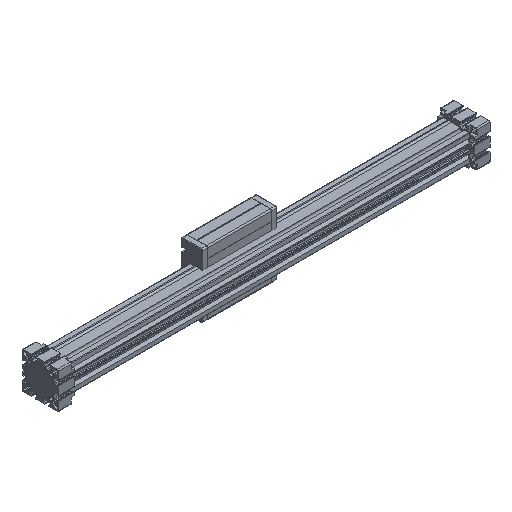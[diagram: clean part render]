
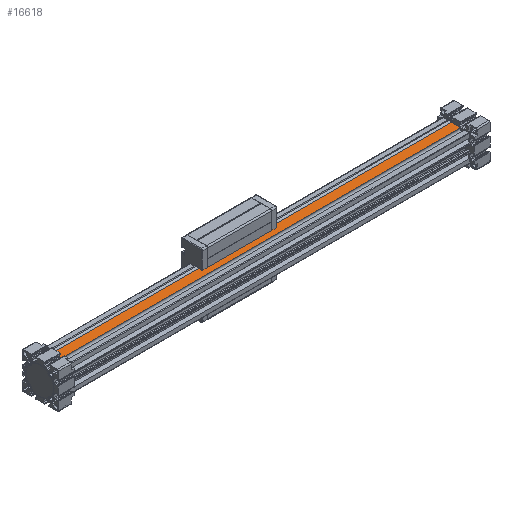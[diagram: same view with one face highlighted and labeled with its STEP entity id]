
A CAD part, isometric view. The second image highlights one B-rep face of the part: STEP entity #16618.
In plain terms, the highlighted planar face has unit normal (0, 0, 1) as drawn and (0, 0, -1) by its records, which use the part's own axes.
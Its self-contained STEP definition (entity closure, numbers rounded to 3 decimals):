
#313 = PLANE ( 'NONE',  #24413 ) ;
#406 = VECTOR ( 'NONE', #27085, 1000. ) ;
#626 = VECTOR ( 'NONE', #26319, 1000. ) ;
#2727 = DIRECTION ( 'NONE',  ( -1., 0., 0. ) ) ;
#2949 = LINE ( 'NONE', #22754, #14836 ) ;
#5091 = CARTESIAN_POINT ( 'NONE',  ( 0., -10.76, -30. ) ) ;
#5829 = EDGE_LOOP ( 'NONE', ( #12409, #22188, #28394, #19390 ) ) ;
#6107 = CARTESIAN_POINT ( 'NONE',  ( 0., 10.76, -30. ) ) ;
#6601 = VERTEX_POINT ( 'NONE', #5091 ) ;
#11443 = EDGE_CURVE ( 'NONE', #17444, #6601, #13265, .T. ) ;
#12179 = LINE ( 'NONE', #25850, #17778 ) ;
#12409 = ORIENTED_EDGE ( 'NONE', *, *, #11443, .F. ) ;
#12512 = FACE_OUTER_BOUND ( 'NONE', #5829, .T. ) ;
#13265 = LINE ( 'NONE', #23909, #626 ) ;
#13783 = LINE ( 'NONE', #24670, #406 ) ;
#14836 = VECTOR ( 'NONE', #25163, 1000. ) ;
#15316 = EDGE_CURVE ( 'NONE', #30064, #17444, #12179, .T. ) ;
#16618 = ADVANCED_FACE ( 'NONE', ( #12512 ), #313, .T. ) ;
#16953 = DIRECTION ( 'NONE',  ( 0., 0., -1. ) ) ;
#17444 = VERTEX_POINT ( 'NONE', #6107 ) ;
#17778 = VECTOR ( 'NONE', #28269, 1000. ) ;
#19390 = ORIENTED_EDGE ( 'NONE', *, *, #28758, .T. ) ;
#20697 = EDGE_CURVE ( 'NONE', #30064, #25280, #2949, .T. ) ;
#22188 = ORIENTED_EDGE ( 'NONE', *, *, #15316, .F. ) ;
#22754 = CARTESIAN_POINT ( 'NONE',  ( 900., 0., -30. ) ) ;
#23909 = CARTESIAN_POINT ( 'NONE',  ( 0., 0., -30. ) ) ;
#24413 = AXIS2_PLACEMENT_3D ( 'NONE', #26421, #16953, #2727 ) ;
#24651 = CARTESIAN_POINT ( 'NONE',  ( 900., -10.76, -30. ) ) ;
#24670 = CARTESIAN_POINT ( 'NONE',  ( 900., -10.76, -30. ) ) ;
#25163 = DIRECTION ( 'NONE',  ( 0., -1., 0. ) ) ;
#25280 = VERTEX_POINT ( 'NONE', #24651 ) ;
#25850 = CARTESIAN_POINT ( 'NONE',  ( 900., 10.76, -30. ) ) ;
#26319 = DIRECTION ( 'NONE',  ( 0., -1., 0. ) ) ;
#26421 = CARTESIAN_POINT ( 'NONE',  ( 900., 0., -30. ) ) ;
#27085 = DIRECTION ( 'NONE',  ( -1., 0., 0. ) ) ;
#28269 = DIRECTION ( 'NONE',  ( -1., 0., 0. ) ) ;
#28394 = ORIENTED_EDGE ( 'NONE', *, *, #20697, .T. ) ;
#28758 = EDGE_CURVE ( 'NONE', #25280, #6601, #13783, .T. ) ;
#30064 = VERTEX_POINT ( 'NONE', #30415 ) ;
#30415 = CARTESIAN_POINT ( 'NONE',  ( 900., 10.76, -30. ) ) ;
